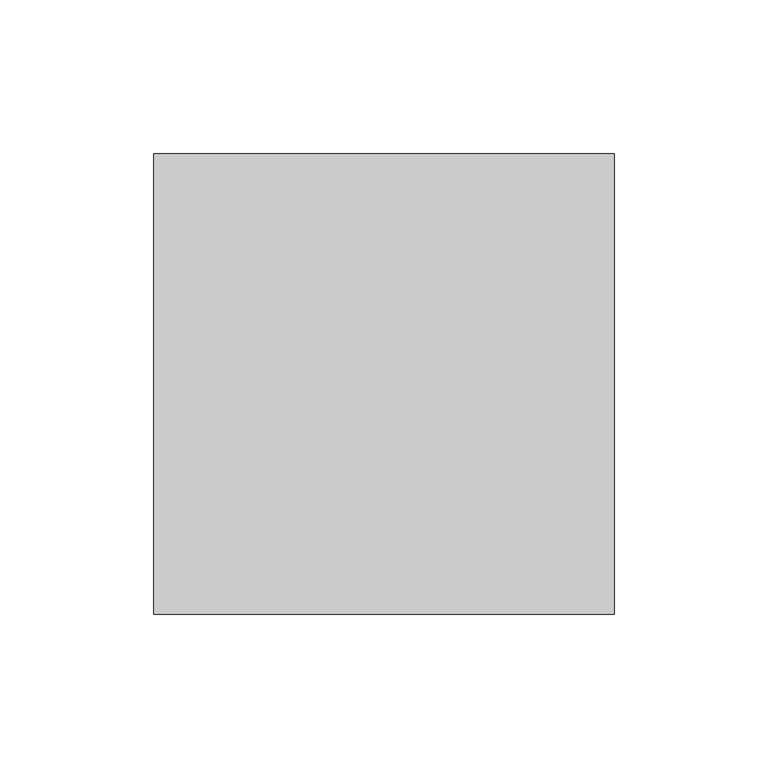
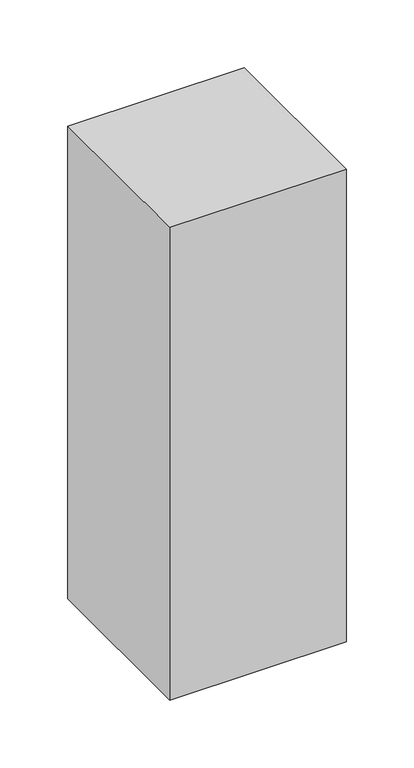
"""IFC4 building model written with IfcOpenShell, lengths in millimetres: proxy geometry, Брус : 150х150."""

from ifc_helpers import new_model, si_unit, origin, origin_with_axes, place, context, project, spatial, polyline, outline, extrude, source, transform, mapped, element, save


def generic_models_9285a14d(model_context):
    return source(origin(), model_context, "Body", "SweptSolid", [
        extrude(outline(polyline([(150.0, 0.0), (0.0, 0.0), (0.0, 150.0), (150.0, 150.0), (150.0, 0.0)])), origin_with_axes(), (0.0, 0.0, 1.0), 425.0),
    ])


if __name__ == "__main__":
    model = new_model("IFC4")
    model_context = context("Model", 3, world=origin())
    ifc_project = project(units=[si_unit("LENGTHUNIT", "METRE", prefix="MILLI")], contexts=[model_context])
    site = spatial("IfcSite", under=ifc_project)
    building = spatial("IfcBuilding", under=site)
    placement = place(None, origin())
    generic_models_shape = generic_models_9285a14d(model_context)
    element("IfcBuildingElementProxy", 1, Name="Брус : 150х150", ObjectType="Брус : 150х150", at=placement, inside=building, context=model_context, shape_type="MappedRepresentation", body=[
        mapped(generic_models_shape, transform((0.0, 0.0, 0.0), x_axis=(1.0, 0.0, 0.0), y_axis=(0.0, 1.0, 0.0), z_axis=(0.0, 0.0, 1.0))),
    ])
    save(model, "model.ifc")
